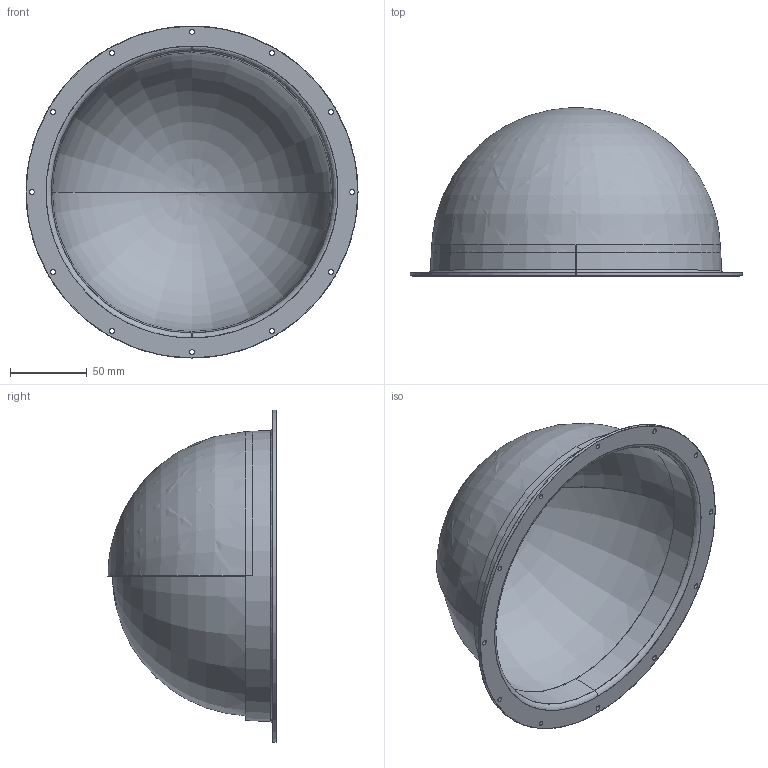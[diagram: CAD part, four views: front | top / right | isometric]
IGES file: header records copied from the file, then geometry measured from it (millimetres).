
Start section: SolidWorks IGES file using analytic representation for surfaces
Global section: file name: C:\Users\Jonathan\Dropbox\BR-Engineering\Models\WTE8-X1A-PUBLIC\WTE8-P-DOME-R1.IGS; native system: SolidWorks 2014; preprocessor: SolidWorks 2014; author: Jonathan; date: 170112.113143; units: millimetre
Bounding box: 216.54 x 109.7 x 216.54 mm (x, y, z)
Surface area: 145358.3 mm2 (no closed solid volume)
Topology: 0 solids, 0 shells, 40 faces, 800 edges, 799 vertices
Faces by surface type: revolution 34, bspline 6
